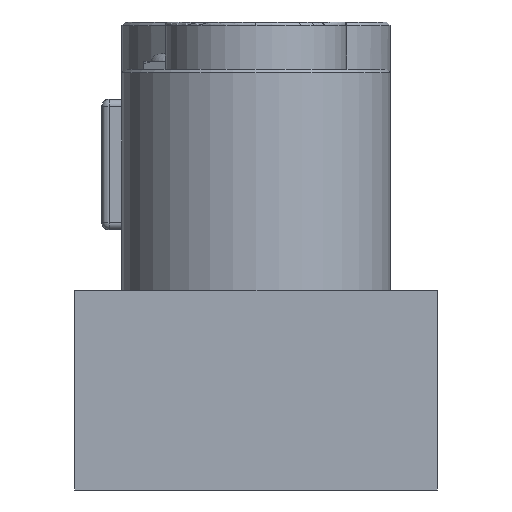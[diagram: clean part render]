
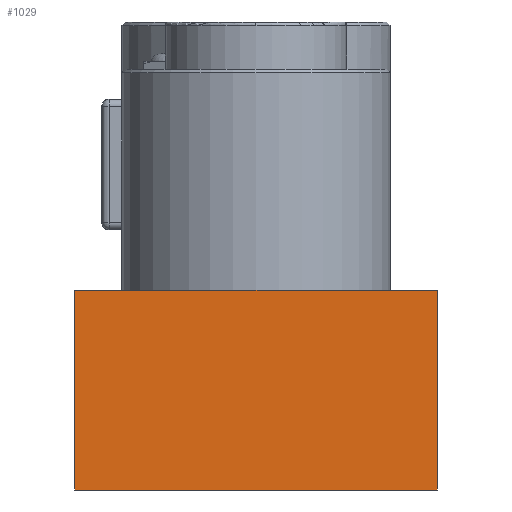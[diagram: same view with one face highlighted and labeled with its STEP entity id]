
A CAD part, left-side view. The second image highlights one B-rep face of the part: STEP entity #1029.
In plain terms, the highlighted planar face has unit normal (-1, 0, 0).
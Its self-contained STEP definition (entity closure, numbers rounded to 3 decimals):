
#990=CARTESIAN_POINT('Axis2P3D Location',(-45.,-50.,55.)) ;
#995=CARTESIAN_POINT('Line Origine',(-45.,50.,27.5)) ;
#999=CARTESIAN_POINT('Vertex',(-45.,50.,55.)) ;
#1001=CARTESIAN_POINT('Vertex',(-45.,50.,0.)) ;
#1004=CARTESIAN_POINT('Line Origine',(-45.,0.,0.)) ;
#1008=CARTESIAN_POINT('Vertex',(-45.,-50.,0.)) ;
#1011=CARTESIAN_POINT('Line Origine',(-45.,-50.,27.5)) ;
#1015=CARTESIAN_POINT('Vertex',(-45.,-50.,55.)) ;
#1018=CARTESIAN_POINT('Line Origine',(-45.,0.,55.)) ;
#991=DIRECTION('Axis2P3D Direction',(1.,0.,0.)) ;
#992=DIRECTION('Axis2P3D XDirection',(0.,0.,-1.)) ;
#996=DIRECTION('Vector Direction',(0.,0.,-1.)) ;
#1005=DIRECTION('Vector Direction',(0.,1.,0.)) ;
#1012=DIRECTION('Vector Direction',(0.,0.,-1.)) ;
#1019=DIRECTION('Vector Direction',(0.,1.,0.)) ;
#993=AXIS2_PLACEMENT_3D('Plane Axis2P3D',#990,#991,#992) ;
#1024=ORIENTED_EDGE('',*,*,#1003,.T.) ;
#1025=ORIENTED_EDGE('',*,*,#1010,.F.) ;
#1026=ORIENTED_EDGE('',*,*,#1017,.F.) ;
#1027=ORIENTED_EDGE('',*,*,#1022,.T.) ;
#997=VECTOR('Line Direction',#996,1.) ;
#1006=VECTOR('Line Direction',#1005,1.) ;
#1013=VECTOR('Line Direction',#1012,1.) ;
#1020=VECTOR('Line Direction',#1019,1.) ;
#1029=ADVANCED_FACE('',(#1028),#994,.F.) ;
#1003=EDGE_CURVE('',#1000,#1002,#998,.T.) ;
#1010=EDGE_CURVE('',#1009,#1002,#1007,.T.) ;
#1017=EDGE_CURVE('',#1016,#1009,#1014,.T.) ;
#1022=EDGE_CURVE('',#1016,#1000,#1021,.T.) ;
#1023=EDGE_LOOP('',(#1024,#1025,#1026,#1027)) ;
#1028=FACE_OUTER_BOUND('',#1023,.T.) ;
#998=LINE('Line',#995,#997) ;
#1007=LINE('Line',#1004,#1006) ;
#1014=LINE('Line',#1011,#1013) ;
#1021=LINE('Line',#1018,#1020) ;
#994=PLANE('Plane',#993) ;
#1000=VERTEX_POINT('',#999) ;
#1002=VERTEX_POINT('',#1001) ;
#1009=VERTEX_POINT('',#1008) ;
#1016=VERTEX_POINT('',#1015) ;
